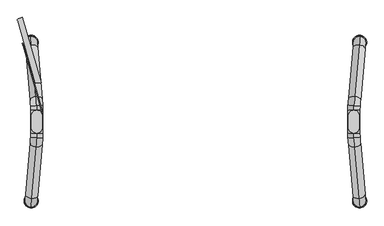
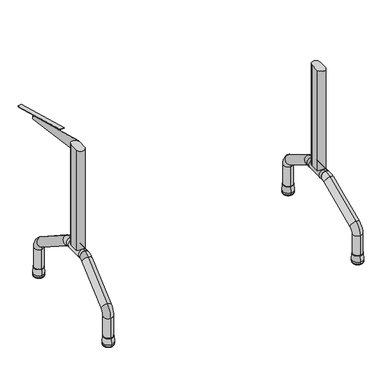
"""IFC4 building model written with IfcOpenShell, lengths in millimetres: furniture geometry, Mesa para refeitório : Mesa para refeitóio 120x77cm cód 70473."""

from ifc_helpers import new_model, si_unit, point, frame, frame_2d, origin, place, context, project, spatial, polyline, circle_curve, ellipse_curve, trimmed, segment, composite_curve, outline, extrude, source, transform, mapped, element, save
from ifc_brep_helpers import plane_surface, cylinder_surface, revolved_surface, extruded_surface, advanced_brep


def furniture_62db9295(model_context):
    return source(origin(), model_context, "Body", "SolidModel", [
        advanced_brep(
        [(-519.4401581, 37.5, 255.0), (-519.4401581, -37.5, 255.0), (-519.4401581, -37.5, 295.0), (-519.4401581, 37.5, 295.0), (-520.0583573, -51.7441422, 295.0), (-520.0583573, -51.7441422, 255.0), (-520.0583573, 51.7441422, 295.0), (-520.0583573, 51.7441422, 255.0)],
        [
            (0, 1),
            (1, 2, ellipse_curve(frame((-519.4401581, -37.5, 275.0), z_axis=(0.0, 1.0, 0.0), x_axis=(0.0, 0.0, -1.0)), 20.0, 19.923894)),
            (2, 3),
            (3, 0, ellipse_curve(frame((-519.4401581, 37.5, 275.0), z_axis=(0.0, -1.0, 0.0), x_axis=(0.0, 0.0, -1.0)), 20.0, 19.923894)),
            (2, 1, ellipse_curve(frame((-519.4401581, -37.5, 275.0), z_axis=(0.0, 1.0, 0.0), x_axis=(0.0, 0.0, -1.0)), 20.0, 19.923894)),
            (0, 3, ellipse_curve(frame((-519.4401581, 37.5, 275.0), z_axis=(0.0, -1.0, 0.0), x_axis=(0.0, 0.0, -1.0)), 20.0, 19.923894)),
            (4, 5, ellipse_curve(frame((-520.0583573, -51.7441422, 275.0), z_axis=(-0.08663729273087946, -0.9962399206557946, 0.0), x_axis=(0.0, 0.0, -1.0)), 20.0, 19.923894)),
            (5, 4, ellipse_curve(frame((-520.0583573, -51.7441422, 275.0), z_axis=(-0.08663729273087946, -0.9962399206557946, 0.0), x_axis=(0.0, 0.0, -1.0)), 20.0, 19.923894)),
            (4, 2, circle_curve(frame((-683.8513695, -37.5, 295.0), z_axis=(0.0, 0.0, 1.0), x_axis=(1.0, 0.0, 0.0)), 164.4112114)),
            (1, 5, circle_curve(frame((-683.8513695, -37.5, 255.0), z_axis=(0.0, 0.0, -1.0), x_axis=(1.0, 0.0, 0.0)), 164.4112114)),
            (6, 7, ellipse_curve(frame((-520.0583573, 51.7441422, 275.0), z_axis=(-0.08663729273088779, 0.9962399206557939, 0.0), x_axis=(0.0, 0.0, -1.0)), 20.0, 19.923894)),
            (7, 6, ellipse_curve(frame((-520.0583573, 51.7441422, 275.0), z_axis=(-0.08663729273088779, 0.9962399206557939, 0.0), x_axis=(0.0, 0.0, -1.0)), 20.0, 19.923894)),
            (3, 6, circle_curve(frame((-683.8513695, 37.5, 295.0), z_axis=(0.0, 0.0, 1.0), x_axis=(0.996239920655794, 0.08663729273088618, 0.0)), 164.4112114)),
            (7, 0, circle_curve(frame((-683.8513695, 37.5, 255.0), z_axis=(0.0, 0.0, -1.0), x_axis=(0.996239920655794, 0.08663729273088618, 0.0)), 164.4112114)),
        ],
        [
            extruded_surface(trimmed(ellipse_curve(frame((-519.4401581, 37.5, 275.0), z_axis=(0.0, -1.0, 0.0), x_axis=(0.0, 0.0, -1.0)), 20.0, 19.923894), [point((-519.4401581, 37.5, 295.0))], [point((-519.4401581, 37.5, 255.0))], True, "CARTESIAN"), (0.0, -75.0, 0.0), 75.0),
            extruded_surface(trimmed(ellipse_curve(frame((-519.4401581, 37.5, 275.0), z_axis=(0.0, -1.0, 0.0), x_axis=(0.0, 0.0, -1.0)), 20.0, 19.923894), [point((-519.4401581, 37.5, 255.0))], [point((-519.4401581, 37.5, 295.0))], True, "CARTESIAN"), (0.0, -75.0, 0.0), 75.0),
            plane_surface(frame((-520.0583573, -51.7441422, 0.0), z_axis=(-0.08663729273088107, -0.9962399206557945, 0.0), x_axis=(0.0, 0.0, 1.0))),
            revolved_surface(trimmed(ellipse_curve(frame((-519.4401581, -37.5, 275.0), z_axis=(0.0, -1.0, 0.0), x_axis=(0.0, 0.0, -1.0)), 20.0, 19.923894), [point((-519.4401581, -37.5, 295.0))], [point((-519.4401581, -37.5, 255.0))], True, "CARTESIAN"), (-683.8513695, -37.5, 0.0), (0.0, 0.0, 1.0)),
            revolved_surface(trimmed(ellipse_curve(frame((-519.4401581, -37.5, 275.0), z_axis=(0.0, -1.0, 0.0), x_axis=(0.0, 0.0, -1.0)), 20.0, 19.923894), [point((-519.4401581, -37.5, 255.0))], [point((-519.4401581, -37.5, 295.0))], True, "CARTESIAN"), (-683.8513695, -37.5, 0.0), (0.0, 0.0, 1.0)),
            plane_surface(frame((-520.0583573, 51.7441422, 0.0), z_axis=(-0.08663729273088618, 0.996239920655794, 0.0), x_axis=(0.0, 0.0, 1.0))),
            revolved_surface(trimmed(ellipse_curve(frame((-520.0583573, 51.7441422, 275.0), z_axis=(0.08663729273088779, -0.9962399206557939, 0.0), x_axis=(0.0, 0.0, -1.0)), 20.0, 19.923894), [point((-520.0583573, 51.7441422, 295.0))], [point((-520.0583573, 51.7441422, 255.0))], True, "CARTESIAN"), (-683.8513695, 37.5, 0.0), (0.0, 0.0, 1.0)),
            revolved_surface(trimmed(ellipse_curve(frame((-520.0583573, 51.7441422, 275.0), z_axis=(0.08663729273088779, -0.9962399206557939, 0.0), x_axis=(0.0, 0.0, -1.0)), 20.0, 19.923894), [point((-520.0583573, 51.7441422, 255.0))], [point((-520.0583573, 51.7441422, 295.0))], True, "CARTESIAN"), (-683.8513695, 37.5, 0.0), (0.0, 0.0, 1.0)),
        ],
        [
            (0, [[1, 2, 3, 4]]),
            (1, [[-3, 5, -1, 6]]),
            (2, [[7, 8]]),
            (3, [[-7, 9, -2, 10]]),
            (4, [[-8, -10, -5, -9]]),
            (5, [[11, 12]]),
            (6, [[-4, 13, -12, 14]]),
            (7, [[-6, -14, -11, -13]]),
        ],
    ),
        advanced_brep(
        [(-539.9590188, 279.1314153, 43.1183008), (-536.4727891, 239.2836274, 43.1183008), (-539.9590188, 279.1314153, 130.5759348), (-536.4727891, 239.2836274, 130.5759348), (-537.4872272, 250.8787073, 181.5558347), (-522.822711, 83.2625212, 285.9798998), (-520.9843424, 62.2498719, 251.9932999), (-535.6488585, 229.866058, 147.5692348), (-520.0651581, 51.7435473, 295.0), (-520.0651581, 51.7435473, 255.0)],
        [
            (0, 1, circle_curve(frame((-538.215904, 259.2075213, 43.1183008), z_axis=(0.0, 0.0, -1.0), x_axis=(0.08715574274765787, -0.9961946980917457, 0.0)), 20.0)),
            (1, 0, circle_curve(frame((-538.215904, 259.2075213, 43.1183008), z_axis=(0.0, 0.0, -1.0), x_axis=(0.08715574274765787, -0.9961946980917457, 0.0)), 20.0)),
            (0, 2),
            (2, 3, circle_curve(frame((-538.215904, 259.2075213, 130.5759348), z_axis=(0.0, 0.0, -1.0), x_axis=(0.08715574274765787, -0.9961946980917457, 0.0)), 20.0)),
            (3, 1),
            (3, 2, circle_curve(frame((-538.215904, 259.2075213, 130.5759348), z_axis=(0.0, 0.0, -1.0), x_axis=(0.08715574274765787, -0.9961946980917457, 0.0)), 20.0)),
            (4, 5),
            (5, 6, circle_curve(frame((-521.9035267, 72.7561965, 268.9865999), z_axis=(-0.07405318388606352, 0.8464317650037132, -0.5273228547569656), x_axis=(0.04595921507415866, -0.5253162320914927, -0.8496649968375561)), 20.0)),
            (6, 7),
            (7, 4, circle_curve(frame((-536.5680429, 240.3723827, 164.5625347), z_axis=(0.07405318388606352, -0.8464317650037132, 0.5273228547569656), x_axis=(0.04595921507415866, -0.5253162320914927, -0.8496649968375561)), 20.0)),
            (6, 5, circle_curve(frame((-521.9035267, 72.7561965, 268.9865999), z_axis=(-0.07405318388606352, 0.8464317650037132, -0.5273228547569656), x_axis=(0.04595921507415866, -0.5253162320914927, -0.8496649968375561)), 20.0)),
            (4, 7, circle_curve(frame((-536.5680429, 240.3723827, 164.5625347), z_axis=(0.07405318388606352, -0.8464317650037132, 0.5273228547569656), x_axis=(0.04595921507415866, -0.5253162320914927, -0.8496649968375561)), 20.0)),
            (7, 3, circle_curve(frame((-534.7296742, 219.3597334, 130.5759348), z_axis=(-0.9961946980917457, -0.08715574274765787, 0.0), x_axis=(-0.08715574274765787, 0.9961946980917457, 0.0)), 20.0)),
            (2, 4, circle_curve(frame((-534.7296742, 219.3597334, 130.5759348), z_axis=(0.9961946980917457, 0.08715574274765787, 0.0), x_axis=(-0.08715574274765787, 0.9961946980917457, 0.0)), 60.0)),
            (8, 9, circle_curve(frame((-520.0651581, 51.7435473, 275.0), z_axis=(0.08715574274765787, -0.9961946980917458, 0.0), x_axis=(0.0, 0.0, -1.0)), 20.0)),
            (9, 8, circle_curve(frame((-520.0651581, 51.7435473, 275.0), z_axis=(0.08715574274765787, -0.9961946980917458, 0.0), x_axis=(0.0, 0.0, -1.0)), 20.0)),
            (9, 6, circle_curve(frame((-520.0651581, 51.7435473, 235.0), z_axis=(-0.9961946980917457, -0.08715574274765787, 0.0), x_axis=(-0.045959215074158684, 0.5253162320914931, 0.8496649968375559)), 20.0)),
            (5, 8, circle_curve(frame((-520.0651581, 51.7435473, 235.0), z_axis=(0.9961946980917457, 0.08715574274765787, 0.0), x_axis=(-0.045959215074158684, 0.5253162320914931, 0.8496649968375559)), 60.0)),
        ],
        [
            plane_surface(frame((149.1584377, 319.3449838, 43.1183008), z_axis=(0.0, 0.0, -1.0000000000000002), x_axis=(-0.9961946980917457, -0.08715574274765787, 0.0))),
            cylinder_surface(frame((-538.215904, 259.2075213, 43.1183008), z_axis=(0.0, 0.0, -1.0000000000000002), x_axis=(0.08715574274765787, -0.9961946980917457, 0.0)), 20.0),
            cylinder_surface(frame((-536.5680429, 240.3723827, 164.5625347), z_axis=(-0.07405318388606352, 0.8464317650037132, -0.5273228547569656), x_axis=(0.04595921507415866, -0.5253162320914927, -0.8496649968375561)), 20.0),
            revolved_surface(trimmed(ellipse_curve(frame((-538.215904, 259.2075213, 130.5759348), z_axis=(0.0, 0.0, 1.0000000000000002), x_axis=(0.08715574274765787, -0.9961946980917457, 0.0)), 20.0, 20.0), [point((-536.4727891, 239.2836274, 130.5759348))], [point((-539.9590188, 279.1314153, 130.5759348))], True, "CARTESIAN"), (152.6446674, 279.4971959, 130.5759348), (-0.9961946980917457, -0.08715574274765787, 0.0)),
            revolved_surface(trimmed(ellipse_curve(frame((-538.215904, 259.2075213, 130.5759348), z_axis=(0.0, 0.0, 1.0000000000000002), x_axis=(0.08715574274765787, -0.9961946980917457, 0.0)), 20.0, 20.0), [point((-539.9590188, 279.1314153, 130.5759348))], [point((-536.4727891, 239.2836274, 130.5759348))], True, "CARTESIAN"), (152.6446674, 279.4971959, 130.5759348), (-0.9961946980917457, -0.08715574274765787, 0.0)),
            plane_surface(frame((167.3091835, 111.8810098, 275.0), z_axis=(0.08715574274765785, -0.9961946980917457, 0.0), x_axis=(-0.9961946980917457, -0.08715574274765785, 0.0))),
            revolved_surface(trimmed(ellipse_curve(frame((-521.9035267, 72.7561965, 268.9865999), z_axis=(0.07405318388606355, -0.8464317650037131, 0.527322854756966), x_axis=(0.04595921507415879, -0.5253162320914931, -0.8496649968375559)), 20.0, 20.0), [point((-520.9843424, 62.2498719, 251.9932999))], [point((-522.822711, 83.2625212, 285.9798998))], True, "CARTESIAN"), (167.3091835, 111.8810098, 235.0), (-0.9961946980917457, -0.08715574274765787, 0.0)),
            revolved_surface(trimmed(ellipse_curve(frame((-521.9035267, 72.7561965, 268.9865999), z_axis=(0.07405318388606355, -0.8464317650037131, 0.527322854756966), x_axis=(0.04595921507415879, -0.5253162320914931, -0.8496649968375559)), 20.0, 20.0), [point((-522.822711, 83.2625212, 285.9798998))], [point((-520.9843424, 62.2498719, 251.9932999))], True, "CARTESIAN"), (167.3091835, 111.8810098, 235.0), (-0.9961946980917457, -0.08715574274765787, 0.0)),
        ],
        [
            (0, [[1, 2]]),
            (1, [[3, 4, 5, -1]]),
            (1, [[-5, 6, -3, -2]]),
            (2, [[7, 8, 9, 10]]),
            (2, [[-9, 11, -7, 12]]),
            (3, [[-10, 13, -4, 14]]),
            (4, [[-12, -14, -6, -13]]),
            (5, [[15, 16]]),
            (6, [[-16, 17, -8, 18]]),
            (7, [[-15, -18, -11, -17]]),
        ],
    ),
        advanced_brep(
        [(-536.4727891, -239.2836274, 43.1183008), (-539.9590188, -279.1314153, 43.1183008), (-539.9590188, -279.1314153, 130.5759348), (-536.4727891, -239.2836274, 130.5759348), (-537.4872272, -250.8787073, 181.5558347), (-522.822711, -83.2625212, 285.9798998), (-520.9843424, -62.2498719, 251.9932999), (-535.6488585, -229.866058, 147.5692348), (-520.0651581, -51.7435473, 255.0), (-520.0651581, -51.7435473, 295.0)],
        [
            (0, 1, circle_curve(frame((-538.215904, -259.2075213, 43.1183008), z_axis=(0.0, 0.0, -1.0), x_axis=(-0.08715574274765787, -0.9961946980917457, 0.0)), 20.0)),
            (1, 0, circle_curve(frame((-538.215904, -259.2075213, 43.1183008), z_axis=(0.0, 0.0, -1.0), x_axis=(-0.08715574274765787, -0.9961946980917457, 0.0)), 20.0)),
            (1, 2),
            (2, 3, circle_curve(frame((-538.215904, -259.2075213, 130.5759348), z_axis=(0.0, 0.0, -1.0), x_axis=(-0.08715574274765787, -0.9961946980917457, 0.0)), 20.0)),
            (3, 0),
            (3, 2, circle_curve(frame((-538.215904, -259.2075213, 130.5759348), z_axis=(0.0, 0.0, -1.0), x_axis=(-0.08715574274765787, -0.9961946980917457, 0.0)), 20.0)),
            (4, 5),
            (5, 6, circle_curve(frame((-521.9035267, -72.7561965, 268.9865999), z_axis=(-0.07405318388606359, -0.8464317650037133, -0.5273228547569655), x_axis=(-0.04595921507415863, -0.5253162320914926, 0.8496649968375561)), 20.0)),
            (6, 7),
            (7, 4, circle_curve(frame((-536.5680429, -240.3723827, 164.5625347), z_axis=(0.07405318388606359, 0.8464317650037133, 0.5273228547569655), x_axis=(-0.04595921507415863, -0.5253162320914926, 0.8496649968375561)), 20.0)),
            (6, 5, circle_curve(frame((-521.9035267, -72.7561965, 268.9865999), z_axis=(-0.07405318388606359, -0.8464317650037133, -0.5273228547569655), x_axis=(-0.04595921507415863, -0.5253162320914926, 0.8496649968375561)), 20.0)),
            (4, 7, circle_curve(frame((-536.5680429, -240.3723827, 164.5625347), z_axis=(0.07405318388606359, 0.8464317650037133, 0.5273228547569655), x_axis=(-0.04595921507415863, -0.5253162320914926, 0.8496649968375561)), 20.0)),
            (7, 3, circle_curve(frame((-534.7296742, -219.3597334, 130.5759348), z_axis=(0.9961946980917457, -0.08715574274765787, 0.0), x_axis=(-0.08715574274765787, -0.9961946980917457, 0.0)), 20.0)),
            (2, 4, circle_curve(frame((-534.7296742, -219.3597334, 130.5759348), z_axis=(-0.9961946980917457, 0.08715574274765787, 0.0), x_axis=(-0.08715574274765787, -0.9961946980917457, 0.0)), 60.0)),
            (8, 9, circle_curve(frame((-520.0651581, -51.7435473, 275.0), z_axis=(0.08715574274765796, 0.9961946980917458, 0.0), x_axis=(0.0, 0.0, 1.0)), 20.0)),
            (9, 8, circle_curve(frame((-520.0651581, -51.7435473, 275.0), z_axis=(0.08715574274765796, 0.9961946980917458, 0.0), x_axis=(0.0, 0.0, 1.0)), 20.0)),
            (8, 6, circle_curve(frame((-520.0651581, -51.7435473, 235.0), z_axis=(0.9961946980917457, -0.08715574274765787, 0.0), x_axis=(-0.045959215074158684, -0.5253162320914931, 0.8496649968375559)), 20.0)),
            (5, 9, circle_curve(frame((-520.0651581, -51.7435473, 235.0), z_axis=(-0.9961946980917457, 0.08715574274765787, 0.0), x_axis=(-0.045959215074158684, -0.5253162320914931, 0.8496649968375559)), 60.0)),
        ],
        [
            plane_surface(frame((149.1584377, -319.3449838, 43.1183008), z_axis=(0.0, 0.0, -1.0000000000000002), x_axis=(-0.9961946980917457, 0.08715574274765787, 0.0))),
            cylinder_surface(frame((-538.215904, -259.2075213, 43.1183008), z_axis=(0.0, 0.0, -1.0000000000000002), x_axis=(-0.08715574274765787, -0.9961946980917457, 0.0)), 20.0),
            cylinder_surface(frame((-536.5680429, -240.3723827, 164.5625347), z_axis=(-0.07405318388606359, -0.8464317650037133, -0.5273228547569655), x_axis=(-0.04595921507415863, -0.5253162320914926, 0.8496649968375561)), 20.0),
            revolved_surface(trimmed(ellipse_curve(frame((-538.215904, -259.2075213, 130.5759348), z_axis=(0.0, 0.0, 1.0000000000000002), x_axis=(-0.08715574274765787, -0.9961946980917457, 0.0)), 20.0, 20.0), [point((-536.4727891, -239.2836274, 130.5759348))], [point((-539.9590188, -279.1314153, 130.5759348))], True, "CARTESIAN"), (152.6446674, -279.4971959, 130.5759348), (0.9961946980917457, -0.08715574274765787, 0.0)),
            revolved_surface(trimmed(ellipse_curve(frame((-538.215904, -259.2075213, 130.5759348), z_axis=(0.0, 0.0, 1.0000000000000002), x_axis=(-0.08715574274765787, -0.9961946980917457, 0.0)), 20.0, 20.0), [point((-539.9590188, -279.1314153, 130.5759348))], [point((-536.4727891, -239.2836274, 130.5759348))], True, "CARTESIAN"), (152.6446674, -279.4971959, 130.5759348), (0.9961946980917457, -0.08715574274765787, 0.0)),
            plane_surface(frame((167.3091835, -111.8810098, 275.0), z_axis=(0.0871557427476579, 0.9961946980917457, 0.0), x_axis=(-0.9961946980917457, 0.0871557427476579, 0.0))),
            revolved_surface(trimmed(ellipse_curve(frame((-521.9035267, -72.7561965, 268.9865999), z_axis=(0.07405318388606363, 0.8464317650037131, 0.527322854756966), x_axis=(-0.04595921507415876, -0.5253162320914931, 0.8496649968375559)), 20.0, 20.0), [point((-520.9843424, -62.2498719, 251.9932999))], [point((-522.822711, -83.2625212, 285.9798998))], True, "CARTESIAN"), (167.3091835, -111.8810098, 235.0), (0.9961946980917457, -0.08715574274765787, 0.0)),
            revolved_surface(trimmed(ellipse_curve(frame((-521.9035267, -72.7561965, 268.9865999), z_axis=(0.07405318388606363, 0.8464317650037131, 0.527322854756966), x_axis=(-0.04595921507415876, -0.5253162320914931, 0.8496649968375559)), 20.0, 20.0), [point((-522.822711, -83.2625212, 285.9798998))], [point((-520.9843424, -62.2498719, 251.9932999))], True, "CARTESIAN"), (167.3091835, -111.8810098, 235.0), (0.9961946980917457, -0.08715574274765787, 0.0)),
        ],
        [
            (0, [[1, 2]]),
            (1, [[3, 4, 5, -2]]),
            (1, [[-5, 6, -3, -1]]),
            (2, [[7, 8, 9, 10]]),
            (2, [[-9, 11, -7, 12]]),
            (3, [[-10, 13, -4, 14]]),
            (4, [[-12, -14, -6, -13]]),
            (5, [[15, 16]]),
            (6, [[-15, 17, -8, 18]]),
            (7, [[-16, -18, -11, -17]]),
        ],
    ),
        extrude(outline(composite_curve([segment(polyline([(-537.5814475, -19.3376613), (-537.5814475, 19.4032698)]), True, "CONTINUOUS"), segment(trimmed(circle_curve(frame_2d((-519.5814475, 19.4032698)), 18.0), [point((-537.5814475, 19.4032698))], [point((-501.5814475, 19.4032698))], False, "CARTESIAN"), True, "CONTINUOUS"), segment(polyline([(-501.5814475, 19.4032698), (-501.5814475, -19.3376613)]), True, "CONTINUOUS"), segment(trimmed(circle_curve(frame_2d((-519.5814475, -19.3376613)), 18.0), [point((-501.5814475, -19.3376613))], [point((-537.5814475, -19.3376613))], False, "CARTESIAN"), True, "CONTINUOUS")], self_intersect=False)), frame((0.0, 0.0, 275.0), z_axis=(0.0, 0.0, 1.0), x_axis=(1.0, 0.0, 0.0)), (0.0, 0.0, 1.0), 467.0),
        advanced_brep(
        [(519.4401581, 37.5, 255.0), (519.4401581, 37.5, 295.0), (519.4401581, -37.5, 295.0), (519.4401581, -37.5, 255.0), (520.0583573, -51.7441422, 295.0), (520.0583573, -51.7441422, 255.0), (520.0583573, 51.7441422, 295.0), (520.0583573, 51.7441422, 255.0)],
        [
            (0, 1, ellipse_curve(frame((519.4401581, 37.5, 275.0), z_axis=(0.0, -1.0, 0.0), x_axis=(0.0, 0.0, -1.0)), 20.0, 19.923894)),
            (1, 2),
            (2, 3, ellipse_curve(frame((519.4401581, -37.5, 275.0), z_axis=(0.0, 1.0, 0.0), x_axis=(0.0, 0.0, -1.0)), 20.0, 19.923894)),
            (3, 0),
            (1, 0, ellipse_curve(frame((519.4401581, 37.5, 275.0), z_axis=(0.0, -1.0, 0.0), x_axis=(0.0, 0.0, -1.0)), 20.0, 19.923894)),
            (3, 2, ellipse_curve(frame((519.4401581, -37.5, 275.0), z_axis=(0.0, 1.0, 0.0), x_axis=(0.0, 0.0, -1.0)), 20.0, 19.923894)),
            (4, 5, ellipse_curve(frame((520.0583573, -51.7441422, 275.0), z_axis=(0.08663729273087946, -0.9962399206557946, 0.0), x_axis=(0.0, 0.0, -1.0)), 20.0, 19.923894)),
            (5, 4, ellipse_curve(frame((520.0583573, -51.7441422, 275.0), z_axis=(0.08663729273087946, -0.9962399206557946, 0.0), x_axis=(0.0, 0.0, -1.0)), 20.0, 19.923894)),
            (5, 3, circle_curve(frame((683.8513695, -37.5, 255.0), z_axis=(0.0, 0.0, -1.0), x_axis=(-1.0, 0.0, 0.0)), 164.4112114)),
            (2, 4, circle_curve(frame((683.8513695, -37.5, 295.0), z_axis=(0.0, 0.0, 1.0), x_axis=(-1.0, 0.0, 0.0)), 164.4112114)),
            (6, 7, ellipse_curve(frame((520.0583573, 51.7441422, 275.0), z_axis=(0.08663729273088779, 0.9962399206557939, 0.0), x_axis=(0.0, 0.0, -1.0)), 20.0, 19.923894)),
            (7, 6, ellipse_curve(frame((520.0583573, 51.7441422, 275.0), z_axis=(0.08663729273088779, 0.9962399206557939, 0.0), x_axis=(0.0, 0.0, -1.0)), 20.0, 19.923894)),
            (0, 7, circle_curve(frame((683.8513695, 37.5, 255.0), z_axis=(0.0, 0.0, -1.0), x_axis=(-0.996239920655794, 0.08663729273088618, 0.0)), 164.4112114)),
            (6, 1, circle_curve(frame((683.8513695, 37.5, 295.0), z_axis=(0.0, 0.0, 1.0), x_axis=(-0.996239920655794, 0.08663729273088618, 0.0)), 164.4112114)),
        ],
        [
            extruded_surface(trimmed(ellipse_curve(frame((519.4401581, -37.5, 275.0), z_axis=(0.0, 1.0, 0.0), x_axis=(0.0, 0.0, -1.0)), 20.0, 19.923894), [point((519.4401581, -37.5, 295.0))], [point((519.4401581, -37.5, 255.0))], True, "CARTESIAN"), (0.0, 75.0, 0.0), 75.0),
            extruded_surface(trimmed(ellipse_curve(frame((519.4401581, -37.5, 275.0), z_axis=(0.0, 1.0, 0.0), x_axis=(0.0, 0.0, -1.0)), 20.0, 19.923894), [point((519.4401581, -37.5, 255.0))], [point((519.4401581, -37.5, 295.0))], True, "CARTESIAN"), (0.0, 75.0, 0.0), 75.0),
            plane_surface(frame((520.0583573, -51.7441422, 0.0), z_axis=(0.08663729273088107, -0.9962399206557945, 0.0), x_axis=(0.0, 0.0, 1.0))),
            revolved_surface(trimmed(ellipse_curve(frame((519.4401581, -37.5, 275.0), z_axis=(0.0, 1.0, 0.0), x_axis=(0.0, 0.0, -1.0)), 20.0, 19.923894), [point((519.4401581, -37.5, 295.0))], [point((519.4401581, -37.5, 255.0))], True, "CARTESIAN"), (683.8513695, -37.5, 0.0), (0.0, 0.0, 1.0)),
            revolved_surface(trimmed(ellipse_curve(frame((519.4401581, -37.5, 275.0), z_axis=(0.0, 1.0, 0.0), x_axis=(0.0, 0.0, -1.0)), 20.0, 19.923894), [point((519.4401581, -37.5, 255.0))], [point((519.4401581, -37.5, 295.0))], True, "CARTESIAN"), (683.8513695, -37.5, 0.0), (0.0, 0.0, 1.0)),
            plane_surface(frame((520.0583573, 51.7441422, 0.0), z_axis=(0.08663729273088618, 0.996239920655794, 0.0), x_axis=(0.0, 0.0, 1.0))),
            revolved_surface(trimmed(ellipse_curve(frame((520.0583573, 51.7441422, 275.0), z_axis=(0.08663729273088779, 0.9962399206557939, 0.0), x_axis=(0.0, 0.0, -1.0)), 20.0, 19.923894), [point((520.0583573, 51.7441422, 295.0))], [point((520.0583573, 51.7441422, 255.0))], True, "CARTESIAN"), (683.8513695, 37.5, 0.0), (0.0, 0.0, 1.0)),
            revolved_surface(trimmed(ellipse_curve(frame((520.0583573, 51.7441422, 275.0), z_axis=(0.08663729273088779, 0.9962399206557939, 0.0), x_axis=(0.0, 0.0, -1.0)), 20.0, 19.923894), [point((520.0583573, 51.7441422, 255.0))], [point((520.0583573, 51.7441422, 295.0))], True, "CARTESIAN"), (683.8513695, 37.5, 0.0), (0.0, 0.0, 1.0)),
        ],
        [
            (0, [[1, 2, 3, 4]]),
            (1, [[5, -4, 6, -2]]),
            (2, [[7, 8]]),
            (3, [[9, -3, 10, -8]]),
            (4, [[-10, -6, -9, -7]]),
            (5, [[11, 12]]),
            (6, [[13, -11, 14, -1]]),
            (7, [[-14, -12, -13, -5]]),
        ],
    ),
        advanced_brep(
        [(539.9590188, 279.1314153, 43.1183008), (536.4727891, 239.2836274, 43.1183008), (536.4727891, 239.2836274, 130.5759348), (539.9590188, 279.1314153, 130.5759348), (537.4872272, 250.8787073, 181.5558347), (535.6488585, 229.866058, 147.5692348), (520.9843424, 62.2498719, 251.9932999), (522.822711, 83.2625212, 285.9798998), (520.0651581, 51.7435473, 295.0), (520.0651581, 51.7435473, 255.0)],
        [
            (0, 1, circle_curve(frame((538.215904, 259.2075213, 43.1183008), z_axis=(0.0, 0.0, -1.0), x_axis=(-0.08715574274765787, -0.9961946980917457, 0.0)), 20.0)),
            (1, 0, circle_curve(frame((538.215904, 259.2075213, 43.1183008), z_axis=(0.0, 0.0, -1.0), x_axis=(-0.08715574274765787, -0.9961946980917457, 0.0)), 20.0)),
            (1, 2),
            (2, 3, circle_curve(frame((538.215904, 259.2075213, 130.5759348), z_axis=(0.0, 0.0, -1.0), x_axis=(-0.08715574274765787, -0.9961946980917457, 0.0)), 20.0)),
            (3, 0),
            (3, 2, circle_curve(frame((538.215904, 259.2075213, 130.5759348), z_axis=(0.0, 0.0, -1.0), x_axis=(-0.08715574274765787, -0.9961946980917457, 0.0)), 20.0)),
            (4, 5, circle_curve(frame((536.5680429, 240.3723827, 164.5625347), z_axis=(-0.07405318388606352, -0.8464317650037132, 0.5273228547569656), x_axis=(-0.04595921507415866, -0.5253162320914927, -0.8496649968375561)), 20.0)),
            (5, 6),
            (6, 7, circle_curve(frame((521.9035267, 72.7561965, 268.9865999), z_axis=(0.07405318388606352, 0.8464317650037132, -0.5273228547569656), x_axis=(-0.04595921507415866, -0.5253162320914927, -0.8496649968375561)), 20.0)),
            (7, 4),
            (5, 4, circle_curve(frame((536.5680429, 240.3723827, 164.5625347), z_axis=(-0.07405318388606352, -0.8464317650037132, 0.5273228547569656), x_axis=(-0.04595921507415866, -0.5253162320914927, -0.8496649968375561)), 20.0)),
            (7, 6, circle_curve(frame((521.9035267, 72.7561965, 268.9865999), z_axis=(0.07405318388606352, 0.8464317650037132, -0.5273228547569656), x_axis=(-0.04595921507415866, -0.5253162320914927, -0.8496649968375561)), 20.0)),
            (4, 3, circle_curve(frame((534.7296742, 219.3597334, 130.5759348), z_axis=(-0.9961946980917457, 0.08715574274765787, 0.0), x_axis=(0.08715574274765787, 0.9961946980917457, 0.0)), 60.0)),
            (2, 5, circle_curve(frame((534.7296742, 219.3597334, 130.5759348), z_axis=(0.9961946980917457, -0.08715574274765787, 0.0), x_axis=(0.08715574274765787, 0.9961946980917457, 0.0)), 20.0)),
            (8, 9, circle_curve(frame((520.0651581, 51.7435473, 275.0), z_axis=(-0.08715574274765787, -0.9961946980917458, 0.0), x_axis=(0.0, 0.0, -1.0)), 20.0)),
            (9, 8, circle_curve(frame((520.0651581, 51.7435473, 275.0), z_axis=(-0.08715574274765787, -0.9961946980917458, 0.0), x_axis=(0.0, 0.0, -1.0)), 20.0)),
            (8, 7, circle_curve(frame((520.0651581, 51.7435473, 235.0), z_axis=(-0.9961946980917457, 0.08715574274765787, 0.0), x_axis=(0.045959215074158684, 0.5253162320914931, 0.8496649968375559)), 60.0)),
            (6, 9, circle_curve(frame((520.0651581, 51.7435473, 235.0), z_axis=(0.9961946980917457, -0.08715574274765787, 0.0), x_axis=(0.045959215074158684, 0.5253162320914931, 0.8496649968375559)), 20.0)),
        ],
        [
            plane_surface(frame((-149.1584377, 319.3449838, 43.1183008), z_axis=(0.0, 0.0, -1.0000000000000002), x_axis=(0.9961946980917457, -0.08715574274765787, 0.0))),
            cylinder_surface(frame((538.215904, 259.2075213, 43.1183008), z_axis=(0.0, 0.0, -1.0000000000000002), x_axis=(-0.08715574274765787, -0.9961946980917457, 0.0)), 20.0),
            cylinder_surface(frame((536.5680429, 240.3723827, 164.5625347), z_axis=(0.07405318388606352, 0.8464317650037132, -0.5273228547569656), x_axis=(-0.04595921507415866, -0.5253162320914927, -0.8496649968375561)), 20.0),
            revolved_surface(trimmed(ellipse_curve(frame((538.215904, 259.2075213, 130.5759348), z_axis=(0.0, 0.0, -1.0000000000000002), x_axis=(-0.08715574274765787, -0.9961946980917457, 0.0)), 20.0, 20.0), [point((536.4727891, 239.2836274, 130.5759348))], [point((539.9590188, 279.1314153, 130.5759348))], True, "CARTESIAN"), (-152.6446674, 279.4971959, 130.5759348), (0.9961946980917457, -0.08715574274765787, 0.0)),
            revolved_surface(trimmed(ellipse_curve(frame((538.215904, 259.2075213, 130.5759348), z_axis=(0.0, 0.0, -1.0000000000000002), x_axis=(-0.08715574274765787, -0.9961946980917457, 0.0)), 20.0, 20.0), [point((539.9590188, 279.1314153, 130.5759348))], [point((536.4727891, 239.2836274, 130.5759348))], True, "CARTESIAN"), (-152.6446674, 279.4971959, 130.5759348), (0.9961946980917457, -0.08715574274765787, 0.0)),
            plane_surface(frame((-167.3091835, 111.8810098, 275.0), z_axis=(-0.08715574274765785, -0.9961946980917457, 0.0), x_axis=(0.9961946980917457, -0.08715574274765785, 0.0))),
            revolved_surface(trimmed(ellipse_curve(frame((521.9035267, 72.7561965, 268.9865999), z_axis=(0.07405318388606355, 0.8464317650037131, -0.527322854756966), x_axis=(-0.04595921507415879, -0.5253162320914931, -0.8496649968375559)), 20.0, 20.0), [point((520.9843424, 62.2498719, 251.9932999))], [point((522.822711, 83.2625212, 285.9798998))], True, "CARTESIAN"), (-167.3091835, 111.8810098, 235.0), (0.9961946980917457, -0.08715574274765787, 0.0)),
            revolved_surface(trimmed(ellipse_curve(frame((521.9035267, 72.7561965, 268.9865999), z_axis=(0.07405318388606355, 0.8464317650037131, -0.527322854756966), x_axis=(-0.04595921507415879, -0.5253162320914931, -0.8496649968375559)), 20.0, 20.0), [point((522.822711, 83.2625212, 285.9798998))], [point((520.9843424, 62.2498719, 251.9932999))], True, "CARTESIAN"), (-167.3091835, 111.8810098, 235.0), (0.9961946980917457, -0.08715574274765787, 0.0)),
        ],
        [
            (0, [[1, 2]]),
            (1, [[-2, 3, 4, 5]]),
            (1, [[-1, -5, 6, -3]]),
            (2, [[7, 8, 9, 10]]),
            (2, [[11, -10, 12, -8]]),
            (3, [[13, -4, 14, -7]]),
            (4, [[-14, -6, -13, -11]]),
            (5, [[15, 16]]),
            (6, [[17, -9, 18, -15]]),
            (7, [[-18, -12, -17, -16]]),
        ],
    ),
        advanced_brep(
        [(536.4727891, -239.2836274, 43.1183008), (539.9590188, -279.1314153, 43.1183008), (536.4727891, -239.2836274, 130.5759348), (539.9590188, -279.1314153, 130.5759348), (537.4872272, -250.8787073, 181.5558347), (535.6488585, -229.866058, 147.5692348), (520.9843424, -62.2498719, 251.9932999), (522.822711, -83.2625212, 285.9798998), (520.0651581, -51.7435473, 255.0), (520.0651581, -51.7435473, 295.0)],
        [
            (0, 1, circle_curve(frame((538.215904, -259.2075213, 43.1183008), z_axis=(0.0, 0.0, -1.0), x_axis=(0.08715574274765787, -0.9961946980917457, 0.0)), 20.0)),
            (1, 0, circle_curve(frame((538.215904, -259.2075213, 43.1183008), z_axis=(0.0, 0.0, -1.0), x_axis=(0.08715574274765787, -0.9961946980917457, 0.0)), 20.0)),
            (0, 2),
            (2, 3, circle_curve(frame((538.215904, -259.2075213, 130.5759348), z_axis=(0.0, 0.0, -1.0), x_axis=(0.08715574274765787, -0.9961946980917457, 0.0)), 20.0)),
            (3, 1),
            (3, 2, circle_curve(frame((538.215904, -259.2075213, 130.5759348), z_axis=(0.0, 0.0, -1.0), x_axis=(0.08715574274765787, -0.9961946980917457, 0.0)), 20.0)),
            (4, 5, circle_curve(frame((536.5680429, -240.3723827, 164.5625347), z_axis=(-0.07405318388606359, 0.8464317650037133, 0.5273228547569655), x_axis=(0.04595921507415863, -0.5253162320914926, 0.8496649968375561)), 20.0)),
            (5, 6),
            (6, 7, circle_curve(frame((521.9035267, -72.7561965, 268.9865999), z_axis=(0.07405318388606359, -0.8464317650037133, -0.5273228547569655), x_axis=(0.04595921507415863, -0.5253162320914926, 0.8496649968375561)), 20.0)),
            (7, 4),
            (5, 4, circle_curve(frame((536.5680429, -240.3723827, 164.5625347), z_axis=(-0.07405318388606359, 0.8464317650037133, 0.5273228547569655), x_axis=(0.04595921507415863, -0.5253162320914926, 0.8496649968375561)), 20.0)),
            (7, 6, circle_curve(frame((521.9035267, -72.7561965, 268.9865999), z_axis=(0.07405318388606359, -0.8464317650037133, -0.5273228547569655), x_axis=(0.04595921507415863, -0.5253162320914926, 0.8496649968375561)), 20.0)),
            (4, 3, circle_curve(frame((534.7296742, -219.3597334, 130.5759348), z_axis=(0.9961946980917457, 0.08715574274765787, 0.0), x_axis=(0.08715574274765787, -0.9961946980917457, 0.0)), 60.0)),
            (2, 5, circle_curve(frame((534.7296742, -219.3597334, 130.5759348), z_axis=(-0.9961946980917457, -0.08715574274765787, 0.0), x_axis=(0.08715574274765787, -0.9961946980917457, 0.0)), 20.0)),
            (8, 9, circle_curve(frame((520.0651581, -51.7435473, 275.0), z_axis=(-0.08715574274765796, 0.9961946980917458, 0.0), x_axis=(0.0, 0.0, 1.0)), 20.0)),
            (9, 8, circle_curve(frame((520.0651581, -51.7435473, 275.0), z_axis=(-0.08715574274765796, 0.9961946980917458, 0.0), x_axis=(0.0, 0.0, 1.0)), 20.0)),
            (9, 7, circle_curve(frame((520.0651581, -51.7435473, 235.0), z_axis=(0.9961946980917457, 0.08715574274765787, 0.0), x_axis=(0.045959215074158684, -0.5253162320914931, 0.8496649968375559)), 60.0)),
            (6, 8, circle_curve(frame((520.0651581, -51.7435473, 235.0), z_axis=(-0.9961946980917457, -0.08715574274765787, 0.0), x_axis=(0.045959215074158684, -0.5253162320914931, 0.8496649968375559)), 20.0)),
        ],
        [
            plane_surface(frame((-149.1584377, -319.3449838, 43.1183008), z_axis=(0.0, 0.0, -1.0000000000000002), x_axis=(0.9961946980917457, 0.08715574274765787, 0.0))),
            cylinder_surface(frame((538.215904, -259.2075213, 43.1183008), z_axis=(0.0, 0.0, -1.0000000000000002), x_axis=(0.08715574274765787, -0.9961946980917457, 0.0)), 20.0),
            cylinder_surface(frame((536.5680429, -240.3723827, 164.5625347), z_axis=(0.07405318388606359, -0.8464317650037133, -0.5273228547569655), x_axis=(0.04595921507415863, -0.5253162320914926, 0.8496649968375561)), 20.0),
            revolved_surface(trimmed(ellipse_curve(frame((538.215904, -259.2075213, 130.5759348), z_axis=(0.0, 0.0, -1.0000000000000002), x_axis=(0.08715574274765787, -0.9961946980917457, 0.0)), 20.0, 20.0), [point((536.4727891, -239.2836274, 130.5759348))], [point((539.9590188, -279.1314153, 130.5759348))], True, "CARTESIAN"), (-152.6446674, -279.4971959, 130.5759348), (-0.9961946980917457, -0.08715574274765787, 0.0)),
            revolved_surface(trimmed(ellipse_curve(frame((538.215904, -259.2075213, 130.5759348), z_axis=(0.0, 0.0, -1.0000000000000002), x_axis=(0.08715574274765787, -0.9961946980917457, 0.0)), 20.0, 20.0), [point((539.9590188, -279.1314153, 130.5759348))], [point((536.4727891, -239.2836274, 130.5759348))], True, "CARTESIAN"), (-152.6446674, -279.4971959, 130.5759348), (-0.9961946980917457, -0.08715574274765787, 0.0)),
            plane_surface(frame((-167.3091835, -111.8810098, 275.0), z_axis=(-0.0871557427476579, 0.9961946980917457, 0.0), x_axis=(0.9961946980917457, 0.0871557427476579, 0.0))),
            revolved_surface(trimmed(ellipse_curve(frame((521.9035267, -72.7561965, 268.9865999), z_axis=(0.07405318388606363, -0.8464317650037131, -0.527322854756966), x_axis=(0.04595921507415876, -0.5253162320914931, 0.8496649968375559)), 20.0, 20.0), [point((520.9843424, -62.2498719, 251.9932999))], [point((522.822711, -83.2625212, 285.9798998))], True, "CARTESIAN"), (-167.3091835, -111.8810098, 235.0), (-0.9961946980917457, -0.08715574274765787, 0.0)),
            revolved_surface(trimmed(ellipse_curve(frame((521.9035267, -72.7561965, 268.9865999), z_axis=(0.07405318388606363, -0.8464317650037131, -0.527322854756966), x_axis=(0.04595921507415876, -0.5253162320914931, 0.8496649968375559)), 20.0, 20.0), [point((522.822711, -83.2625212, 285.9798998))], [point((520.9843424, -62.2498719, 251.9932999))], True, "CARTESIAN"), (-167.3091835, -111.8810098, 235.0), (-0.9961946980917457, -0.08715574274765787, 0.0)),
        ],
        [
            (0, [[1, 2]]),
            (1, [[-1, 3, 4, 5]]),
            (1, [[-2, -5, 6, -3]]),
            (2, [[7, 8, 9, 10]]),
            (2, [[11, -10, 12, -8]]),
            (3, [[13, -4, 14, -7]]),
            (4, [[-14, -6, -13, -11]]),
            (5, [[15, 16]]),
            (6, [[17, -9, 18, -16]]),
            (7, [[-18, -12, -17, -15]]),
        ],
    ),
        extrude(outline(composite_curve([segment(trimmed(circle_curve(frame_2d((519.5814475, -19.3376613)), 18.0), [point((537.5814475, -19.3376613))], [point((501.5814475, -19.3376613))], False, "CARTESIAN"), True, "CONTINUOUS"), segment(polyline([(501.5814475, -19.3376613), (501.5814475, 19.4032698)]), True, "CONTINUOUS"), segment(trimmed(circle_curve(frame_2d((519.5814475, 19.4032698)), 18.0), [point((501.5814475, 19.4032698))], [point((537.5814475, 19.4032698))], False, "CARTESIAN"), True, "CONTINUOUS"), segment(polyline([(537.5814475, 19.4032698), (537.5814475, -19.3376613)]), True, "CONTINUOUS")], self_intersect=False)), frame((0.0, 0.0, 275.0), z_axis=(0.0, 0.0, 1.0), x_axis=(1.0, 0.0, 0.0)), (0.0, 0.0, 1.0), 467.0),
        advanced_brep(
        [(-538.215904, 280.5839249, 42.9792915), (-538.215904, 281.212521, 42.3931162), (-538.215904, 238.787479, 42.3931162), (-538.215904, 239.4160751, 42.9792915), (-538.215904, 283.125, 15.0433923), (-538.215904, 236.875, 15.0433923), (-538.215904, 283.125, 7.2213749), (-538.215904, 236.875, 7.2213749), (-538.215904, 276.0093092, 0.1056841), (-538.215904, 243.9906908, 0.1056841), (-538.215904, 260.0, 0.1056841), (-538.215904, 260.0, 42.9792915)],
        [
            (0, 1, circle_curve(frame((-538.215904, 280.5839249, 42.3491605), z_axis=(-1.0, 0.0, 0.0), x_axis=(0.0, -1.0, 0.0)), 0.630131)),
            (1, 2, circle_curve(frame((-538.215904, 260.0, 42.3931162), z_axis=(0.0, 0.0, 1.0), x_axis=(0.0, -1.0, 0.0)), 21.212521)),
            (2, 3, circle_curve(frame((-538.215904, 239.4160751, 42.3491605), z_axis=(-1.0, 0.0, 0.0), x_axis=(0.0, 1.0, 0.0)), 0.630131)),
            (3, 0, circle_curve(frame((-538.215904, 260.0, 42.9792915), z_axis=(0.0, 0.0, -1.0), x_axis=(0.0, -1.0, 0.0)), 20.5839249)),
            (2, 1, circle_curve(frame((-538.215904, 260.0, 42.3931162), z_axis=(0.0, 0.0, 1.0), x_axis=(0.0, -1.0, 0.0)), 21.212521)),
            (0, 3, circle_curve(frame((-538.215904, 260.0, 42.9792915), z_axis=(0.0, 0.0, -1.0), x_axis=(0.0, -1.0, 0.0)), 20.5839249)),
            (1, 4),
            (4, 5, circle_curve(frame((-538.215904, 260.0, 15.0433923), z_axis=(0.0, 0.0, 1.0), x_axis=(0.0, -1.0, 0.0)), 23.125)),
            (5, 2),
            (5, 4, circle_curve(frame((-538.215904, 260.0, 15.0433923), z_axis=(0.0, 0.0, 1.0), x_axis=(0.0, -1.0, 0.0)), 23.125)),
            (4, 6),
            (6, 7, circle_curve(frame((-538.215904, 260.0, 7.2213749), z_axis=(0.0, 0.0, 1.0), x_axis=(0.0, -1.0, 0.0)), 23.125)),
            (7, 5),
            (7, 6, circle_curve(frame((-538.215904, 260.0, 7.2213749), z_axis=(0.0, 0.0, 1.0), x_axis=(0.0, -1.0, 0.0)), 23.125)),
            (6, 8, circle_curve(frame((-538.215904, 276.0093092, 7.2213749), z_axis=(-1.0, 0.0, 0.0), x_axis=(0.0, -1.0, 0.0)), 7.1156908)),
            (8, 9, circle_curve(frame((-538.215904, 260.0, 0.1056841), z_axis=(0.0, 0.0, 1.0), x_axis=(0.0, -1.0, 0.0)), 16.0093092)),
            (9, 7, circle_curve(frame((-538.215904, 243.9906908, 7.2213749), z_axis=(-1.0, 0.0, 0.0), x_axis=(0.0, 1.0, 0.0)), 7.1156908)),
            (9, 8, circle_curve(frame((-538.215904, 260.0, 0.1056841), z_axis=(0.0, 0.0, 1.0), x_axis=(0.0, -1.0, 0.0)), 16.0093092)),
            (8, 10),
            (10, 9),
            (11, 0),
            (3, 11),
        ],
        [
            revolved_surface(trimmed(ellipse_curve(frame((-538.215904, 239.4160751, 42.3491605), z_axis=(-1.0, 0.0, 0.0), x_axis=(0.0, 1.0, 0.0)), 0.630131, 0.630131), [point((-538.215904, 238.787479, 42.3931162))], [point((-538.215904, 239.4160751, 42.9792915))], True, "CARTESIAN"), (-538.215904, 260.0, 0.1056841), (0.0, 0.0, 1.0)),
            revolved_surface(polyline([(-538.215904, 236.875, 15.0433923), (-538.215904, 238.787479, 42.3931162)]), (-538.215904, 260.0, 0.1056841), (0.0, 0.0, 1.0)),
            cylinder_surface(frame((-538.215904, 260.0, 0.1056841), z_axis=(0.0, 0.0, 1.0), x_axis=(0.0, -1.0, 0.0)), 23.125),
            revolved_surface(trimmed(ellipse_curve(frame((-538.215904, 243.9906908, 7.2213749), z_axis=(-1.0, 0.0, 0.0), x_axis=(0.0, 1.0, 0.0)), 7.1156908, 7.1156908), [point((-538.215904, 243.9906908, 0.1056841))], [point((-538.215904, 236.875, 7.2213749))], True, "CARTESIAN"), (-538.215904, 260.0, 0.1056841), (0.0, 0.0, 1.0)),
            plane_surface(frame((-538.215904, 260.0, 0.1056841), z_axis=(0.0, 0.0, -1.0), x_axis=(0.0, -1.0, 0.0))),
            plane_surface(frame((-538.215904, 260.0, 42.9792915), z_axis=(0.0, 0.0, 1.0), x_axis=(0.0, -1.0, 0.0))),
        ],
        [
            (0, [[1, 2, 3, 4]]),
            (0, [[-3, 5, -1, 6]]),
            (1, [[7, 8, 9, -2]]),
            (1, [[-9, 10, -7, -5]]),
            (2, [[11, 12, 13, -8]]),
            (2, [[-13, 14, -11, -10]]),
            (3, [[15, 16, 17, -12]]),
            (3, [[-17, 18, -15, -14]]),
            (4, [[19, 20, -16]]),
            (4, [[-20, -19, -18]]),
            (5, [[21, -4, 22]]),
            (5, [[-22, -6, -21]]),
        ],
    ),
        advanced_brep(
        [(-538.215904, -239.4160751, 42.9792915), (-538.215904, -238.787479, 42.3931162), (-538.215904, -281.212521, 42.3931162), (-538.215904, -280.5839249, 42.9792915), (-538.215904, -236.875, 15.0433923), (-538.215904, -283.125, 15.0433923), (-538.215904, -236.875, 7.2213749), (-538.215904, -283.125, 7.2213749), (-538.215904, -243.9906908, 0.1056841), (-538.215904, -276.0093092, 0.1056841), (-538.215904, -260.0, 0.1056841), (-538.215904, -260.0, 42.9792915)],
        [
            (0, 1, circle_curve(frame((-538.215904, -239.4160751, 42.3491605), z_axis=(-1.0, 0.0, 0.0), x_axis=(0.0, -1.0, 0.0)), 0.630131)),
            (1, 2, circle_curve(frame((-538.215904, -260.0, 42.3931162), z_axis=(0.0, 0.0, 1.0), x_axis=(0.0, -1.0, 0.0)), 21.212521)),
            (2, 3, circle_curve(frame((-538.215904, -280.5839249, 42.3491605), z_axis=(-1.0, 0.0, 0.0), x_axis=(0.0, 1.0, 0.0)), 0.630131)),
            (3, 0, circle_curve(frame((-538.215904, -260.0, 42.9792915), z_axis=(0.0, 0.0, -1.0), x_axis=(0.0, -1.0, 0.0)), 20.5839249)),
            (2, 1, circle_curve(frame((-538.215904, -260.0, 42.3931162), z_axis=(0.0, 0.0, 1.0), x_axis=(0.0, -1.0, 0.0)), 21.212521)),
            (0, 3, circle_curve(frame((-538.215904, -260.0, 42.9792915), z_axis=(0.0, 0.0, -1.0), x_axis=(0.0, -1.0, 0.0)), 20.5839249)),
            (1, 4),
            (4, 5, circle_curve(frame((-538.215904, -260.0, 15.0433923), z_axis=(0.0, 0.0, 1.0), x_axis=(0.0, -1.0, 0.0)), 23.125)),
            (5, 2),
            (5, 4, circle_curve(frame((-538.215904, -260.0, 15.0433923), z_axis=(0.0, 0.0, 1.0), x_axis=(0.0, -1.0, 0.0)), 23.125)),
            (4, 6),
            (6, 7, circle_curve(frame((-538.215904, -260.0, 7.2213749), z_axis=(0.0, 0.0, 1.0), x_axis=(0.0, -1.0, 0.0)), 23.125)),
            (7, 5),
            (7, 6, circle_curve(frame((-538.215904, -260.0, 7.2213749), z_axis=(0.0, 0.0, 1.0), x_axis=(0.0, -1.0, 0.0)), 23.125)),
            (6, 8, circle_curve(frame((-538.215904, -243.9906908, 7.2213749), z_axis=(-1.0, 0.0, 0.0), x_axis=(0.0, -1.0, 0.0)), 7.1156908)),
            (8, 9, circle_curve(frame((-538.215904, -260.0, 0.1056841), z_axis=(0.0, 0.0, 1.0), x_axis=(0.0, -1.0, 0.0)), 16.0093092)),
            (9, 7, circle_curve(frame((-538.215904, -276.0093092, 7.2213749), z_axis=(-1.0, 0.0, 0.0), x_axis=(0.0, 1.0, 0.0)), 7.1156908)),
            (9, 8, circle_curve(frame((-538.215904, -260.0, 0.1056841), z_axis=(0.0, 0.0, 1.0), x_axis=(0.0, -1.0, 0.0)), 16.0093092)),
            (8, 10),
            (10, 9),
            (11, 0),
            (3, 11),
        ],
        [
            revolved_surface(trimmed(ellipse_curve(frame((-538.215904, -280.5839249, 42.3491605), z_axis=(-1.0, 0.0, 0.0), x_axis=(0.0, 1.0, 0.0)), 0.630131, 0.630131), [point((-538.215904, -281.212521, 42.3931162))], [point((-538.215904, -280.5839249, 42.9792915))], True, "CARTESIAN"), (-538.215904, -260.0, 0.1056841), (0.0, 0.0, 1.0)),
            revolved_surface(polyline([(-538.215904, -283.125, 15.0433923), (-538.215904, -281.212521, 42.3931162)]), (-538.215904, -260.0, 0.1056841), (0.0, 0.0, 1.0)),
            cylinder_surface(frame((-538.215904, -260.0, 0.1056841), z_axis=(0.0, 0.0, 1.0), x_axis=(0.0, -1.0, 0.0)), 23.125),
            revolved_surface(trimmed(ellipse_curve(frame((-538.215904, -276.0093092, 7.2213749), z_axis=(-1.0, 0.0, 0.0), x_axis=(0.0, 1.0, 0.0)), 7.1156908, 7.1156908), [point((-538.215904, -276.0093092, 0.1056841))], [point((-538.215904, -283.125, 7.2213749))], True, "CARTESIAN"), (-538.215904, -260.0, 0.1056841), (0.0, 0.0, 1.0)),
            plane_surface(frame((-538.215904, -260.0, 0.1056841), z_axis=(0.0, 0.0, -1.0), x_axis=(0.0, -1.0, 0.0))),
            plane_surface(frame((-538.215904, -260.0, 42.9792915), z_axis=(0.0, 0.0, 1.0), x_axis=(0.0, -1.0, 0.0))),
        ],
        [
            (0, [[1, 2, 3, 4]]),
            (0, [[-3, 5, -1, 6]]),
            (1, [[7, 8, 9, -2]]),
            (1, [[-9, 10, -7, -5]]),
            (2, [[11, 12, 13, -8]]),
            (2, [[-13, 14, -11, -10]]),
            (3, [[15, 16, 17, -12]]),
            (3, [[-17, 18, -15, -14]]),
            (4, [[19, 20, -16]]),
            (4, [[-20, -19, -18]]),
            (5, [[21, -4, 22]]),
            (5, [[-22, -6, -21]]),
        ],
    ),
        advanced_brep(
        [(538.215904, 280.5839249, 42.9792915), (538.215904, 239.4160751, 42.9792915), (538.215904, 238.787479, 42.3931162), (538.215904, 281.212521, 42.3931162), (538.215904, 236.875, 15.0433923), (538.215904, 283.125, 15.0433923), (538.215904, 236.875, 7.2213749), (538.215904, 283.125, 7.2213749), (538.215904, 243.9906908, 0.1056841), (538.215904, 276.0093092, 0.1056841), (538.215904, 260.0, 0.1056841), (538.215904, 260.0, 42.9792915)],
        [
            (0, 1, circle_curve(frame((538.215904, 260.0, 42.9792915), z_axis=(0.0, 0.0, -1.0), x_axis=(0.0, -1.0, 0.0)), 20.5839249)),
            (1, 2, circle_curve(frame((538.215904, 239.4160751, 42.3491605), z_axis=(1.0, 0.0, 0.0), x_axis=(0.0, 1.0, 0.0)), 0.630131)),
            (2, 3, circle_curve(frame((538.215904, 260.0, 42.3931162), z_axis=(0.0, 0.0, 1.0), x_axis=(0.0, -1.0, 0.0)), 21.212521)),
            (3, 0, circle_curve(frame((538.215904, 280.5839249, 42.3491605), z_axis=(1.0, 0.0, 0.0), x_axis=(0.0, -1.0, 0.0)), 0.630131)),
            (1, 0, circle_curve(frame((538.215904, 260.0, 42.9792915), z_axis=(0.0, 0.0, -1.0), x_axis=(0.0, -1.0, 0.0)), 20.5839249)),
            (3, 2, circle_curve(frame((538.215904, 260.0, 42.3931162), z_axis=(0.0, 0.0, 1.0), x_axis=(0.0, -1.0, 0.0)), 21.212521)),
            (2, 4),
            (4, 5, circle_curve(frame((538.215904, 260.0, 15.0433923), z_axis=(0.0, 0.0, 1.0), x_axis=(0.0, -1.0, 0.0)), 23.125)),
            (5, 3),
            (5, 4, circle_curve(frame((538.215904, 260.0, 15.0433923), z_axis=(0.0, 0.0, 1.0), x_axis=(0.0, -1.0, 0.0)), 23.125)),
            (4, 6),
            (6, 7, circle_curve(frame((538.215904, 260.0, 7.2213749), z_axis=(0.0, 0.0, 1.0), x_axis=(0.0, -1.0, 0.0)), 23.125)),
            (7, 5),
            (7, 6, circle_curve(frame((538.215904, 260.0, 7.2213749), z_axis=(0.0, 0.0, 1.0), x_axis=(0.0, -1.0, 0.0)), 23.125)),
            (6, 8, circle_curve(frame((538.215904, 243.9906908, 7.2213749), z_axis=(1.0, 0.0, 0.0), x_axis=(0.0, 1.0, 0.0)), 7.1156908)),
            (8, 9, circle_curve(frame((538.215904, 260.0, 0.1056841), z_axis=(0.0, 0.0, 1.0), x_axis=(0.0, -1.0, 0.0)), 16.0093092)),
            (9, 7, circle_curve(frame((538.215904, 276.0093092, 7.2213749), z_axis=(1.0, 0.0, 0.0), x_axis=(0.0, -1.0, 0.0)), 7.1156908)),
            (9, 8, circle_curve(frame((538.215904, 260.0, 0.1056841), z_axis=(0.0, 0.0, 1.0), x_axis=(0.0, -1.0, 0.0)), 16.0093092)),
            (8, 10),
            (10, 9),
            (11, 1),
            (0, 11),
        ],
        [
            revolved_surface(trimmed(ellipse_curve(frame((538.215904, 239.4160751, 42.3491605), z_axis=(-1.0, 0.0, 0.0), x_axis=(0.0, 1.0, 0.0)), 0.630131, 0.630131), [point((538.215904, 238.787479, 42.3931162))], [point((538.215904, 239.4160751, 42.9792915))], True, "CARTESIAN"), (538.215904, 260.0, 0.1056841), (0.0, 0.0, 1.0)),
            revolved_surface(polyline([(538.215904, 236.875, 15.0433923), (538.215904, 238.787479, 42.3931162)]), (538.215904, 260.0, 0.1056841), (0.0, 0.0, 1.0)),
            cylinder_surface(frame((538.215904, 260.0, 0.1056841), z_axis=(0.0, 0.0, 1.0), x_axis=(0.0, -1.0, 0.0)), 23.125),
            revolved_surface(trimmed(ellipse_curve(frame((538.215904, 243.9906908, 7.2213749), z_axis=(-1.0, 0.0, 0.0), x_axis=(0.0, 1.0, 0.0)), 7.1156908, 7.1156908), [point((538.215904, 243.9906908, 0.1056841))], [point((538.215904, 236.875, 7.2213749))], True, "CARTESIAN"), (538.215904, 260.0, 0.1056841), (0.0, 0.0, 1.0)),
            plane_surface(frame((538.215904, 260.0, 0.1056841), z_axis=(0.0, 0.0, -1.0), x_axis=(0.0, -1.0, 0.0))),
            plane_surface(frame((538.215904, 260.0, 42.9792915), z_axis=(0.0, 0.0, 1.0), x_axis=(0.0, -1.0, 0.0))),
        ],
        [
            (0, [[1, 2, 3, 4]]),
            (0, [[5, -4, 6, -2]]),
            (1, [[-3, 7, 8, 9]]),
            (1, [[-6, -9, 10, -7]]),
            (2, [[-8, 11, 12, 13]]),
            (2, [[-10, -13, 14, -11]]),
            (3, [[-12, 15, 16, 17]]),
            (3, [[-14, -17, 18, -15]]),
            (4, [[-16, 19, 20]]),
            (4, [[-18, -20, -19]]),
            (5, [[21, -1, 22]]),
            (5, [[-22, -5, -21]]),
        ],
    ),
        advanced_brep(
        [(538.215904, -239.4160751, 42.9792915), (538.215904, -280.5839249, 42.9792915), (538.215904, -281.212521, 42.3931162), (538.215904, -238.787479, 42.3931162), (538.215904, -283.125, 15.0433923), (538.215904, -236.875, 15.0433923), (538.215904, -283.125, 7.2213749), (538.215904, -236.875, 7.2213749), (538.215904, -276.0093092, 0.1056841), (538.215904, -243.9906908, 0.1056841), (538.215904, -260.0, 0.1056841), (538.215904, -260.0, 42.9792915)],
        [
            (0, 1, circle_curve(frame((538.215904, -260.0, 42.9792915), z_axis=(0.0, 0.0, -1.0), x_axis=(0.0, -1.0, 0.0)), 20.5839249)),
            (1, 2, circle_curve(frame((538.215904, -280.5839249, 42.3491605), z_axis=(1.0, 0.0, 0.0), x_axis=(0.0, 1.0, 0.0)), 0.630131)),
            (2, 3, circle_curve(frame((538.215904, -260.0, 42.3931162), z_axis=(0.0, 0.0, 1.0), x_axis=(0.0, -1.0, 0.0)), 21.212521)),
            (3, 0, circle_curve(frame((538.215904, -239.4160751, 42.3491605), z_axis=(1.0, 0.0, 0.0), x_axis=(0.0, -1.0, 0.0)), 0.630131)),
            (1, 0, circle_curve(frame((538.215904, -260.0, 42.9792915), z_axis=(0.0, 0.0, -1.0), x_axis=(0.0, -1.0, 0.0)), 20.5839249)),
            (3, 2, circle_curve(frame((538.215904, -260.0, 42.3931162), z_axis=(0.0, 0.0, 1.0), x_axis=(0.0, -1.0, 0.0)), 21.212521)),
            (2, 4),
            (4, 5, circle_curve(frame((538.215904, -260.0, 15.0433923), z_axis=(0.0, 0.0, 1.0), x_axis=(0.0, -1.0, 0.0)), 23.125)),
            (5, 3),
            (5, 4, circle_curve(frame((538.215904, -260.0, 15.0433923), z_axis=(0.0, 0.0, 1.0), x_axis=(0.0, -1.0, 0.0)), 23.125)),
            (4, 6),
            (6, 7, circle_curve(frame((538.215904, -260.0, 7.2213749), z_axis=(0.0, 0.0, 1.0), x_axis=(0.0, -1.0, 0.0)), 23.125)),
            (7, 5),
            (7, 6, circle_curve(frame((538.215904, -260.0, 7.2213749), z_axis=(0.0, 0.0, 1.0), x_axis=(0.0, -1.0, 0.0)), 23.125)),
            (6, 8, circle_curve(frame((538.215904, -276.0093092, 7.2213749), z_axis=(1.0, 0.0, 0.0), x_axis=(0.0, 1.0, 0.0)), 7.1156908)),
            (8, 9, circle_curve(frame((538.215904, -260.0, 0.1056841), z_axis=(0.0, 0.0, 1.0), x_axis=(0.0, -1.0, 0.0)), 16.0093092)),
            (9, 7, circle_curve(frame((538.215904, -243.9906908, 7.2213749), z_axis=(1.0, 0.0, 0.0), x_axis=(0.0, -1.0, 0.0)), 7.1156908)),
            (9, 8, circle_curve(frame((538.215904, -260.0, 0.1056841), z_axis=(0.0, 0.0, 1.0), x_axis=(0.0, -1.0, 0.0)), 16.0093092)),
            (8, 10),
            (10, 9),
            (11, 1),
            (0, 11),
        ],
        [
            revolved_surface(trimmed(ellipse_curve(frame((538.215904, -280.5839249, 42.3491605), z_axis=(-1.0, 0.0, 0.0), x_axis=(0.0, 1.0, 0.0)), 0.630131, 0.630131), [point((538.215904, -281.212521, 42.3931162))], [point((538.215904, -280.5839249, 42.9792915))], True, "CARTESIAN"), (538.215904, -260.0, 0.1056841), (0.0, 0.0, 1.0)),
            revolved_surface(polyline([(538.215904, -283.125, 15.0433923), (538.215904, -281.212521, 42.3931162)]), (538.215904, -260.0, 0.1056841), (0.0, 0.0, 1.0)),
            cylinder_surface(frame((538.215904, -260.0, 0.1056841), z_axis=(0.0, 0.0, 1.0), x_axis=(0.0, -1.0, 0.0)), 23.125),
            revolved_surface(trimmed(ellipse_curve(frame((538.215904, -276.0093092, 7.2213749), z_axis=(-1.0, 0.0, 0.0), x_axis=(0.0, 1.0, 0.0)), 7.1156908, 7.1156908), [point((538.215904, -276.0093092, 0.1056841))], [point((538.215904, -283.125, 7.2213749))], True, "CARTESIAN"), (538.215904, -260.0, 0.1056841), (0.0, 0.0, 1.0)),
            plane_surface(frame((538.215904, -260.0, 0.1056841), z_axis=(0.0, 0.0, -1.0), x_axis=(0.0, -1.0, 0.0))),
            plane_surface(frame((538.215904, -260.0, 42.9792915), z_axis=(0.0, 0.0, 1.0), x_axis=(0.0, -1.0, 0.0))),
        ],
        [
            (0, [[1, 2, 3, 4]]),
            (0, [[5, -4, 6, -2]]),
            (1, [[-3, 7, 8, 9]]),
            (1, [[-6, -9, 10, -7]]),
            (2, [[-8, 11, 12, 13]]),
            (2, [[-10, -13, 14, -11]]),
            (3, [[-12, 15, 16, 17]]),
            (3, [[-14, -17, 18, -15]]),
            (4, [[-16, 19, 20]]),
            (4, [[-18, -20, -19]]),
            (5, [[21, -1, 22]]),
            (5, [[-22, -5, -21]]),
        ],
    ),
        extrude(outline(composite_curve([segment(polyline([(0.0, 0.0), (-11.3499079, -59.0370689), (-236.7172151, -15.7100843)]), True, "CONTINUOUS"), segment(trimmed(circle_curve(frame_2d((-235.1976245, -7.8058636)), 8.0489664), [point((-236.7172151, -15.7100843))], [point((-237.1608757, 0.0))], False, "CARTESIAN"), True, "CONTINUOUS"), segment(polyline([(-237.1608757, 0.0), (0.0, 0.0)]), True, "CONTINUOUS")], self_intersect=False)), frame((-501.5529394, 28.1487461, 681.8818171), z_axis=(0.9612616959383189, 0.27563735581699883, 0.0), x_axis=(0.2706805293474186, -0.943975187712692, -0.1887932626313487)), (0.0, 0.0, 1.0), 1.932216),
        extrude(outline(composite_curve([segment(polyline([(-505.6618953, 127.5875081), (-524.3872851, 127.5875081), (-582.9451635, 331.803099)]), True, "CONTINUOUS"), segment(trimmed(circle_curve(frame_2d((-578.138855, 333.1812858)), 5.0), [point((-582.9451635, 331.803099))], [point((-579.5170418, 337.9875943))], False, "CARTESIAN"), True, "CONTINUOUS"), segment(polyline([(-579.5170418, 337.9875943), (-567.0206397, 341.5708799), (-505.6618953, 127.5875081)]), True, "CONTINUOUS")], self_intersect=False)), frame((0.0, 0.0, 740.0), z_axis=(0.0, 0.0, 1.0), x_axis=(1.0, 0.0, 0.0)), (0.0, 0.0, 1.0), 2.0),
    ])


if __name__ == "__main__":
    model = new_model("IFC4")
    model_context = context("Model", 3, world=origin())
    ifc_project = project(units=[si_unit("LENGTHUNIT", "METRE", prefix="MILLI")], contexts=[model_context])
    site = spatial("IfcSite", under=ifc_project)
    building = spatial("IfcBuilding", under=site)
    placement = place(None, origin())
    furniture_shape = furniture_62db9295(model_context)
    element("IfcFurniture", 1, ObjectType="Mesa para refeitório : Mesa para refeitóio 120x77cm cód 70473", at=placement, inside=building, context=model_context, shape_type="MappedRepresentation", body=[
        mapped(furniture_shape, transform((0.0, 0.0, 0.0), x_axis=(1.0, 0.0, 0.0), y_axis=(0.0, 1.0, 0.0), z_axis=(0.0, 0.0, 1.0))),
    ])
    save(model, "model.ifc")
